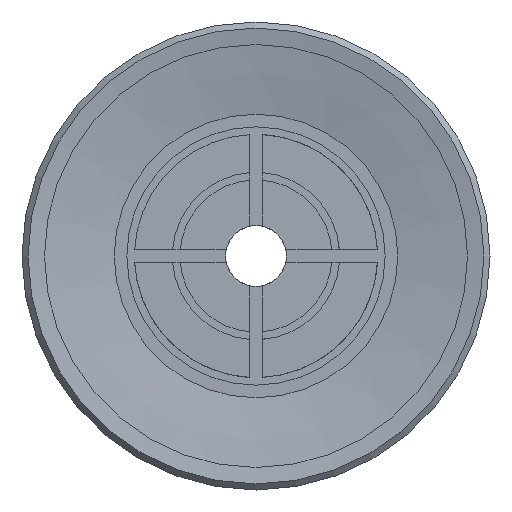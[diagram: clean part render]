
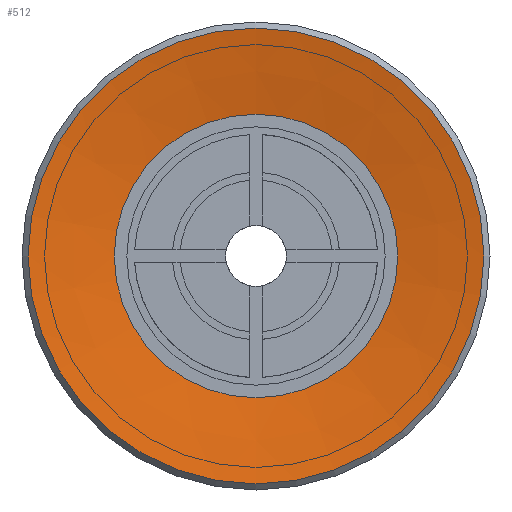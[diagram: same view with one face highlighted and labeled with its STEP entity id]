
A CAD part, front view. The second image highlights one B-rep face of the part: STEP entity #512.
In plain terms, the highlighted conical face has half-angle 80 degrees and reference radius 4.664 mm.
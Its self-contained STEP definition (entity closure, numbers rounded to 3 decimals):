
#512=ADVANCED_FACE('',(#807,#808),#809,.F.);
#807=FACE_BOUND('',#1124,.T.);
#808=FACE_OUTER_BOUND('',#1125,.T.);
#809=CONICAL_SURFACE('',#1126,4.664,1.396);
#1124=EDGE_LOOP('',(#1953));
#1125=EDGE_LOOP('',(#1954));
#1126=AXIS2_PLACEMENT_3D('',#1955,#1956,#1957);
#1953=ORIENTED_EDGE('',*,*,#2223,.F.);
#1954=ORIENTED_EDGE('',*,*,#2262,.T.);
#1955=CARTESIAN_POINT('',(0.0,0.5,0.0));
#1956=DIRECTION('',(-0.0,-1.0,0.));
#1957=DIRECTION('',(0.0,0.,-1.0));
#2223=EDGE_CURVE('',#2590,#2590,#2591,.T.);
#2262=EDGE_CURVE('',#2658,#2658,#2659,.T.);
#2590=VERTEX_POINT('',#3358);
#2591=CIRCLE('',#3359,4.664);
#2658=VERTEX_POINT('',#3486);
#2659=CIRCLE('',#3487,7.5);
#3358=CARTESIAN_POINT('',(0.0,0.5,-4.664));
#3359=AXIS2_PLACEMENT_3D('',#3847,#3848,#3849);
#3486=CARTESIAN_POINT('',(0.0,0.,-7.5));
#3487=AXIS2_PLACEMENT_3D('',#3906,#3907,#3908);
#3847=CARTESIAN_POINT('',(0.0,0.5,0.0));
#3848=DIRECTION('',(0.0,-1.0,0.));
#3849=DIRECTION('',(0.0,0.,-1.0));
#3906=CARTESIAN_POINT('',(0.0,0.0,0.0));
#3907=DIRECTION('',(0.0,-1.0,0.));
#3908=DIRECTION('',(0.0,0.,-1.0));
